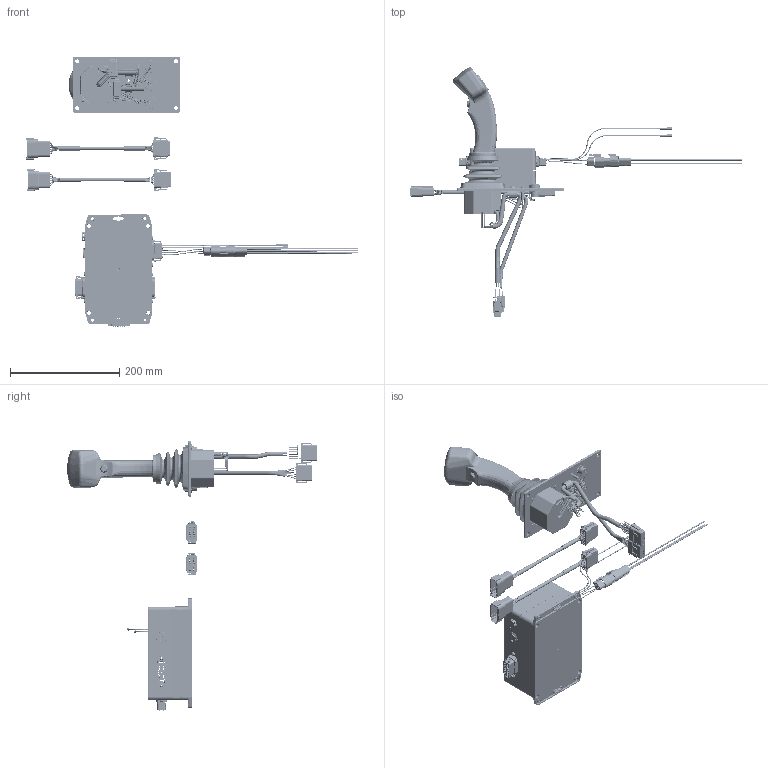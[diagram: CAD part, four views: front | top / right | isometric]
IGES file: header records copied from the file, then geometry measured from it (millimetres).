
Start section: SolidWorks IGES file using analytic representation for surfaces
Global section: file name: C:\plot\models\7038\7038.IGS; native system: SolidWorks 2015; preprocessor: SolidWorks 2015; author: tmott; date: 150901.151003; units: inch
Bounding box: 607.67 x 457.34 x 494.14 mm (x, y, z)
Surface area: 324677.9 mm2 (no closed solid volume)
Topology: 0 solids, 0 shells, 3301 faces, 33082 edges, 33062 vertices
Faces by surface type: bspline 1909, revolution 1392
